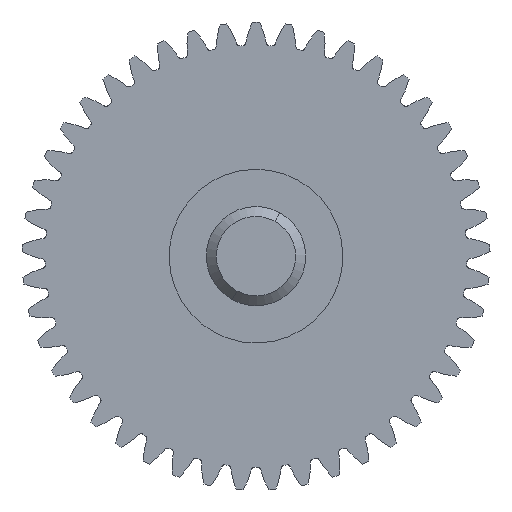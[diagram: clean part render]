
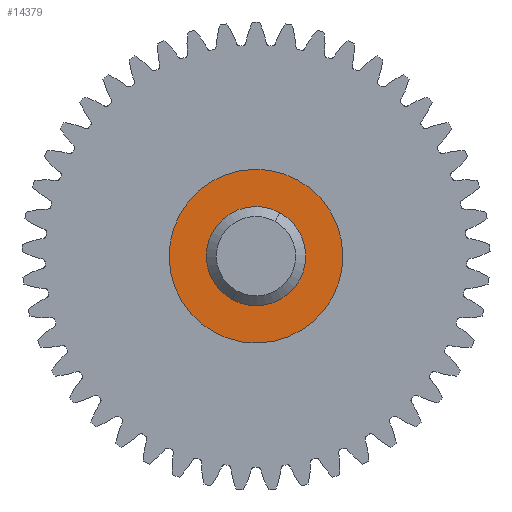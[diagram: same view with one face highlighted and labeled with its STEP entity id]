
A CAD part, front view. The second image highlights one B-rep face of the part: STEP entity #14379.
In plain terms, the highlighted planar face has unit normal (0, -1, 0).
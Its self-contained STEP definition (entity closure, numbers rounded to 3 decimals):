
#14318=AXIS2_PLACEMENT_3D('Circle Axis2P3D',#14316,#14317,$) ;
#14342=AXIS2_PLACEMENT_3D('Circle Axis2P3D',#14340,#14341,$) ;
#14355=AXIS2_PLACEMENT_3D('Plane Axis2P3D',#14352,#14353,#14354) ;
#14363=AXIS2_PLACEMENT_3D('Circle Axis2P3D',#14361,#14362,$) ;
#14372=AXIS2_PLACEMENT_3D('Circle Axis2P3D',#14370,#14371,$) ;
#14313=CARTESIAN_POINT('Vertex',(0.839,1.9,1.536)) ;
#14316=CARTESIAN_POINT('Axis2P3D Location',(0.,1.9,0.)) ;
#14320=CARTESIAN_POINT('Vertex',(-0.839,1.9,-1.536)) ;
#14340=CARTESIAN_POINT('Axis2P3D Location',(0.,1.9,0.)) ;
#14352=CARTESIAN_POINT('Axis2P3D Location',(0.,1.9,1.)) ;
#14361=CARTESIAN_POINT('Axis2P3D Location',(0.,1.9,0.)) ;
#14365=CARTESIAN_POINT('Vertex',(-0.479,1.9,-0.878)) ;
#14367=CARTESIAN_POINT('Vertex',(0.479,1.9,0.878)) ;
#14370=CARTESIAN_POINT('Axis2P3D Location',(0.,1.9,0.)) ;
#14317=DIRECTION('Axis2P3D Direction',(0.,1.,0.)) ;
#14341=DIRECTION('Axis2P3D Direction',(0.,1.,0.)) ;
#14353=DIRECTION('Axis2P3D Direction',(-0.,1.,0.)) ;
#14354=DIRECTION('Axis2P3D XDirection',(1.,0.,0.)) ;
#14362=DIRECTION('Axis2P3D Direction',(-0.,1.,0.)) ;
#14371=DIRECTION('Axis2P3D Direction',(-0.,1.,0.)) ;
#14358=ORIENTED_EDGE('',*,*,#14322,.F.) ;
#14359=ORIENTED_EDGE('',*,*,#14344,.F.) ;
#14376=ORIENTED_EDGE('',*,*,#14369,.T.) ;
#14377=ORIENTED_EDGE('',*,*,#14374,.T.) ;
#14378=FACE_BOUND('',#14375,.T.) ;
#14379=ADVANCED_FACE('Body.1',(#14360,#14378),#14356,.F.) ;
#14319=CIRCLE('generated circle',#14318,1.75) ;
#14343=CIRCLE('generated circle',#14342,1.75) ;
#14364=CIRCLE('generated circle',#14363,1.) ;
#14373=CIRCLE('generated circle',#14372,1.) ;
#14322=EDGE_CURVE('',#14314,#14321,#14319,.T.) ;
#14344=EDGE_CURVE('',#14321,#14314,#14343,.T.) ;
#14369=EDGE_CURVE('',#14366,#14368,#14364,.T.) ;
#14374=EDGE_CURVE('',#14368,#14366,#14373,.T.) ;
#14357=EDGE_LOOP('',(#14358,#14359)) ;
#14375=EDGE_LOOP('',(#14376,#14377)) ;
#14360=FACE_OUTER_BOUND('',#14357,.T.) ;
#14356=PLANE('Plane',#14355) ;
#14314=VERTEX_POINT('',#14313) ;
#14321=VERTEX_POINT('',#14320) ;
#14366=VERTEX_POINT('',#14365) ;
#14368=VERTEX_POINT('',#14367) ;
